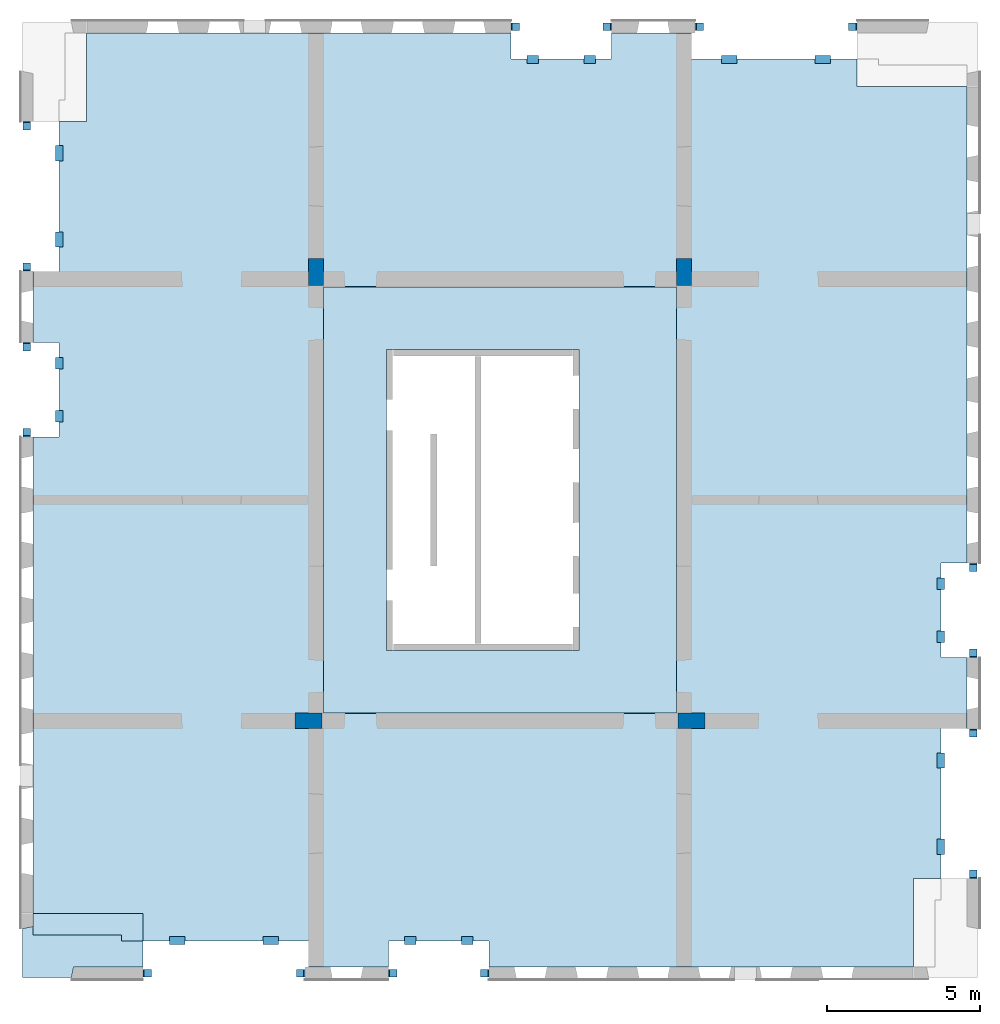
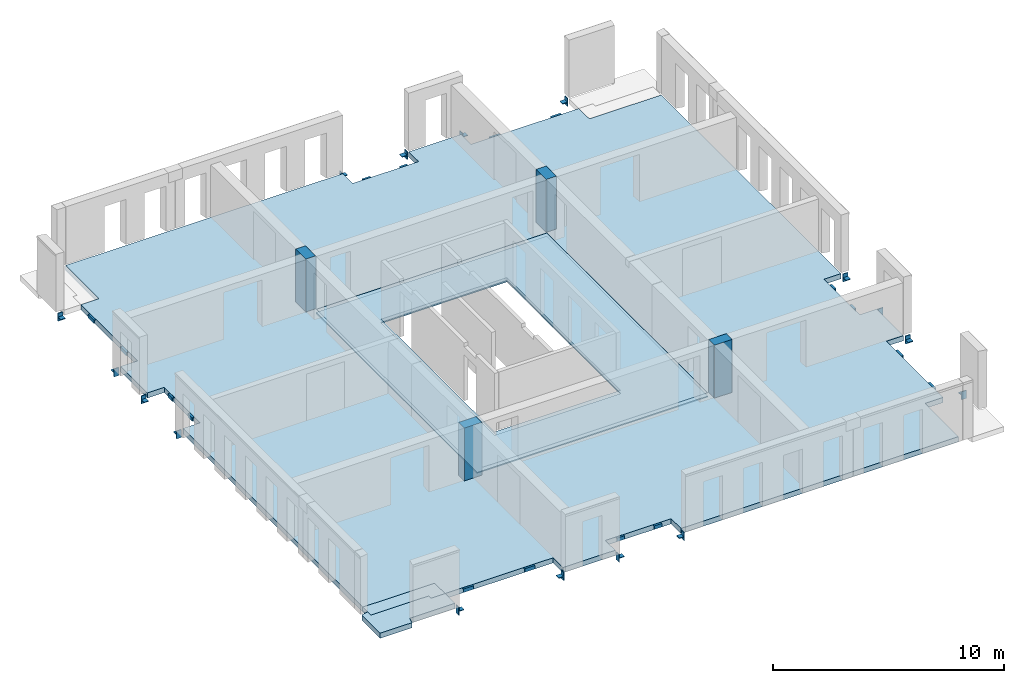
# One storey, part 1 of 5: 32 beams, 5 slabs, 4 columns, 3 openings.
"""IFC2X3 building model written with IfcOpenShell, lengths in millimetres."""

from ifc_helpers import new_model, entity, si_unit, converted_unit, derived_unit, direction, frame, frame_2d, origin, origin_2d_with_axis, place, context, subcontext, project, spatial, polyline, rectangle, outline, extrude, source, transform, mapped, material, layer, layer_set, layer_usage, type_object, type_shapes, element, save


model = new_model("IFC2X3")

# Units and contexts
model_context = context("Model", 3, precision=0.01, world=origin(), true_north=direction((6.12303176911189e-17, 1.0)))
body_context = subcontext(model_context, "Body", "Model", "MODEL_VIEW")
ifc_project = project(units=[si_unit("LENGTHUNIT", "METRE", prefix="MILLI"), si_unit("AREAUNIT", "SQUARE_METRE"), si_unit("VOLUMEUNIT", "CUBIC_METRE"), converted_unit("PLANEANGLEUNIT", "DEGREE", entity("IfcRatioMeasure", 0.0174532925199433), si_unit("PLANEANGLEUNIT", "RADIAN"), dimensions=[0, 0, 0, 0, 0, 0, 0]), si_unit("MASSUNIT", "GRAM", prefix="KILO"), derived_unit("MASSDENSITYUNIT", [(si_unit("MASSUNIT", "GRAM", prefix="KILO"), 1), (si_unit("LENGTHUNIT", "METRE"), -3)]), si_unit("TIMEUNIT", "SECOND"), si_unit("FREQUENCYUNIT", "HERTZ"), si_unit("THERMODYNAMICTEMPERATUREUNIT", "DEGREE_CELSIUS"), derived_unit("THERMALTRANSMITTANCEUNIT", [(si_unit("MASSUNIT", "GRAM", prefix="KILO"), 1), (si_unit("THERMODYNAMICTEMPERATUREUNIT", "KELVIN"), -1), (si_unit("TIMEUNIT", "SECOND"), -3)]), derived_unit("VOLUMETRICFLOWRATEUNIT", [(si_unit("LENGTHUNIT", "METRE"), 3), (si_unit("TIMEUNIT", "SECOND"), -1)]), si_unit("ELECTRICCURRENTUNIT", "AMPERE"), si_unit("ELECTRICVOLTAGEUNIT", "VOLT"), si_unit("POWERUNIT", "WATT"), si_unit("FORCEUNIT", "NEWTON", prefix="KILO"), si_unit("ILLUMINANCEUNIT", "LUX"), si_unit("LUMINOUSFLUXUNIT", "LUMEN"), si_unit("LUMINOUSINTENSITYUNIT", "CANDELA"), derived_unit("USERDEFINED", [(si_unit("MASSUNIT", "GRAM", prefix="KILO"), -1), (si_unit("LENGTHUNIT", "METRE"), -2), (si_unit("TIMEUNIT", "SECOND"), 3), (si_unit("LUMINOUSFLUXUNIT", "LUMEN"), 1)]), derived_unit("LINEARVELOCITYUNIT", [(si_unit("LENGTHUNIT", "METRE"), 1), (si_unit("TIMEUNIT", "SECOND"), -1)]), si_unit("PRESSUREUNIT", "PASCAL"), derived_unit("USERDEFINED", [(si_unit("LENGTHUNIT", "METRE"), -2), (si_unit("MASSUNIT", "GRAM", prefix="KILO"), 1), (si_unit("TIMEUNIT", "SECOND"), -2)])], contexts=[model_context])

# Site, building, storey
site_placement = place(None, origin())
site = spatial("IfcSite", under=ifc_project, at=site_placement, Name="Default", CompositionType="ELEMENT")
building_placement = place(site_placement, origin())
building = spatial("IfcBuilding", under=site, at=building_placement, Name="niet gebruiken", CompositionType="ELEMENT")
storey_placement = place(building_placement, frame((0.0, 0.0, 24120.0)))
storey = spatial("IfcBuildingStorey", under=building, at=storey_placement, Name="07 zevende verdieping", CompositionType="ELEMENT", Elevation=24120.0)

# Columns
ifc_material_1 = material(Name="NLRS_f2_beton ihwg")
column_type_1 = type_object("IfcColumnType", Name="500x880", PredefinedType="COLUMN", material=ifc_material_1)
shared_shape_1 = source(origin(), body_context, "Body", "SweptSolid", [
    extrude(rectangle(XDim=879.999999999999, YDim=500.000000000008, at=origin_2d_with_axis()), frame((135750.003540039, 24940.0, 24030.0), z_axis=(0.0, 0.0, 1.0), x_axis=(0.0, -1.0, 0.0)), (0.0, 0.0, 1.0), 2790.0),
])
type_shapes(column_type_1, [shared_shape_1])
column_1_placement = place(storey_placement, frame((0.0, 0.0, -24120.0)))
element("IfcColumn", 1, at=column_1_placement, inside=storey, type_object=column_type_1, material=ifc_material_1, Name="NLRS_28.11_SCO_TLB_beton kolom ihwg_gen:500x880", ObjectType="500x880", context=body_context, shape_type="MappedRepresentation", body=[
    mapped(shared_shape_1, transform((0.0, 0.0, 0.0), scale=1.0)),
])
column_type_2 = type_object("IfcColumnType", Name="500x880", PredefinedType="COLUMN", material=ifc_material_1)
shared_shape_2 = source(origin(), body_context, "Body", "SweptSolid", [
    extrude(rectangle(XDim=879.999999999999, YDim=500.000000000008, at=origin_2d_with_axis()), frame((147750.0, 24940.0, 24030.0), z_axis=(0.0, 0.0, 1.0), x_axis=(0.0, -1.0, 0.0)), (0.0, 0.0, 1.0), 2790.0),
])
type_shapes(column_type_2, [shared_shape_2])
column_2_placement = place(storey_placement, frame((0.0, 0.0, -24120.0)))
element("IfcColumn", 2, at=column_2_placement, inside=storey, type_object=column_type_2, material=ifc_material_1, Name="NLRS_28.11_SCO_TLB_beton kolom ihwg_gen:500x880", ObjectType="500x880", context=body_context, shape_type="MappedRepresentation", body=[
    mapped(shared_shape_2, transform((0.0, 0.0, 0.0), scale=1.0)),
])
column_type_3 = type_object("IfcColumnType", Name="500x880", PredefinedType="COLUMN", material=ifc_material_1)
shared_shape_3 = source(origin(), body_context, "Body", "SweptSolid", [
    extrude(rectangle(XDim=500.000000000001, YDim=880.000000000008, at=origin_2d_with_axis()), frame((135510.003540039, 10300.0115507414, 24030.0), z_axis=(0.0, 0.0, 1.0), x_axis=(0.0, -1.0, 0.0)), (0.0, 0.0, 1.0), 2790.0),
])
type_shapes(column_type_3, [shared_shape_3])
column_3_placement = place(storey_placement, frame((0.0, 0.0, -24120.0)))
element("IfcColumn", 3, at=column_3_placement, inside=storey, type_object=column_type_3, material=ifc_material_1, Name="NLRS_28.11_SCO_TLB_beton kolom ihwg_gen:500x880", ObjectType="500x880", context=body_context, shape_type="MappedRepresentation", body=[
    mapped(shared_shape_3, transform((0.0, 0.0, 0.0), scale=1.0)),
])
column_type_4 = type_object("IfcColumnType", Name="500x880", PredefinedType="COLUMN", material=ifc_material_1)
shared_shape_4 = source(origin(), body_context, "Body", "SweptSolid", [
    extrude(rectangle(XDim=500.000000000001, YDim=880.000000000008, at=origin_2d_with_axis()), frame((147990.0, 10300.0, 24030.0), z_axis=(0.0, 0.0, 1.0), x_axis=(0.0, -1.0, 0.0)), (0.0, 0.0, 1.0), 2790.0),
])
type_shapes(column_type_4, [shared_shape_4])
column_4_placement = place(storey_placement, frame((0.0, 0.0, -24120.0)))
element("IfcColumn", 4, at=column_4_placement, inside=storey, type_object=column_type_4, material=ifc_material_1, Name="NLRS_28.11_SCO_TLB_beton kolom ihwg_gen:500x880", ObjectType="500x880", context=body_context, shape_type="MappedRepresentation", body=[
    mapped(shared_shape_4, transform((0.0, 0.0, 0.0), scale=1.0)),
])

# Beams
ifc_material_2 = material(Name="NLRS_h2_staal")
beam_type_1 = type_object("IfcBeamType", Name="NLRS_28.11_SF_WPB_stalen schoen 1_gen", PredefinedType="BEAM", material=ifc_material_2)
shared_shape_5 = source(origin(), body_context, "Body", "SweptSolid", [
    extrude(outline(polyline([(-39.5000000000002, -20.5000000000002), (-1.50000000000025, -20.5000000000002), (20.5000000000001, 1.50000000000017), (20.5000000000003, 39.5000000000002), (-39.5000000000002, -20.5000000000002)])), frame((-77.5000000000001, -84.4999999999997, -55.5000000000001), z_axis=(1.0, 0.0, 0.0), x_axis=(0.0, -1.0, 0.0)), (0.0, 0.0, 1.0), 35.0),
    extrude(outline(polyline([(-39.5000000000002, -20.5000000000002), (-1.50000000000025, -20.5000000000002), (20.5000000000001, 1.50000000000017), (20.5000000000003, 39.5000000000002), (-39.5000000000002, -20.5000000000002)])), frame((42.5000000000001, -84.4999999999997, -55.5000000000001), z_axis=(1.0, 0.0, 0.0), x_axis=(0.0, -1.0, 0.0)), (0.0, 0.0, 1.0), 35.0),
    extrude(rectangle(XDim=235.0, YDim=34.9999999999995, at=frame_2d((0.0, 8.88178419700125e-15), x_axis=(1.0, 0.0))), frame((0.0, -122.5, -230.0), z_axis=(0.0, 0.0, 1.0), x_axis=(-1.0, 0.0, 0.0)), (0.0, 0.0, 1.0), 420.0),
    extrude(rectangle(XDim=235.0, YDim=240.0, at=origin_2d_with_axis()), frame((0.0, 15.0, -35.0), z_axis=(0.0, 0.0, 1.0), x_axis=(-1.0, 0.0, 0.0)), (0.0, 0.0, 1.0), 35.0),
])
type_shapes(beam_type_1, [shared_shape_5])
beam_1_placement = place(storey_placement, frame((157180.0, 12500.0, -310.0)))
element("IfcBeam", 5, at=beam_1_placement, inside=storey, type_object=beam_type_1, material=ifc_material_2, Name="NLRS_28.11_SF_WPB_stalen schoen 1_gen:NLRS_28.11_SF_WPB_stalen schoen 1_gen", ObjectType="NLRS_28.11_SF_WPB_stalen schoen 1_gen", context=body_context, shape_type="MappedRepresentation", body=[
    mapped(shared_shape_5, transform((0.0, 0.0, 0.0), scale=1.0)),
])
for number, where, z_axis, x_axis, name in (
    (6, (126320.0, 22500.0, -310.0), (0.0, 0.0, 1.0), (-1.0, 0.0, 0.0), "NLRS_28.11_SF_WPB_stalen schoen 1_gen:NLRS_28.11_SF_WPB_stalen schoen 1_gen"),
    (7, (157180.0, 15300.0, -310.0), (0.0, 0.0, 1.0), (-1.0, 0.0, 0.0), "NLRS_28.11_SF_WPB_stalen schoen 1_gen:NLRS_28.11_SF_WPB_stalen schoen 1_gen"),
):
    element("IfcBeam", number, at=place(storey_placement, frame(where, z_axis=z_axis, x_axis=x_axis)), inside=storey, type_object=beam_type_1, material=ifc_material_2, Name=name, ObjectType="NLRS_28.11_SF_WPB_stalen schoen 1_gen", context=body_context, shape_type="MappedRepresentation", body=[
        mapped(shared_shape_5, transform((0.0, 0.0, 0.0), scale=1.0)),
    ])
beam_2_placement = place(storey_placement, frame((126320.0, 19700.0, -310.0)))
element("IfcBeam", 8, at=beam_2_placement, inside=storey, type_object=beam_type_1, material=ifc_material_2, Name="NLRS_28.11_SF_WPB_stalen schoen 1_gen:NLRS_28.11_SF_WPB_stalen schoen 1_gen", ObjectType="NLRS_28.11_SF_WPB_stalen schoen 1_gen", context=body_context, shape_type="MappedRepresentation", body=[
    mapped(shared_shape_5, transform((0.0, 0.0, 0.0), scale=1.0)),
])
for number, where, z_axis, x_axis, name in (
    (9, (138250.0, 2070.0, -310.0), (0.0, 0.0, 1.0), (0.0, -1.0, 0.0), "NLRS_28.11_SF_WPB_stalen schoen 1_gen:NLRS_28.11_SF_WPB_stalen schoen 1_gen"),
    (10, (141250.0, 2070.0, -310.0), (0.0, 0.0, 1.0), (0.0, 1.0, 0.0), "NLRS_28.11_SF_WPB_stalen schoen 1_gen:NLRS_28.11_SF_WPB_stalen schoen 1_gen"),
    (11, (145250.0, 32930.0, -310.0), (0.0, 0.0, 1.0), (0.0, 1.0, 0.0), "NLRS_28.11_SF_WPB_stalen schoen 1_gen:NLRS_28.11_SF_WPB_stalen schoen 1_gen"),
    (12, (142250.0, 32930.0, -310.0), (0.0, 0.0, 1.0), (0.0, -1.0, 0.0), "NLRS_28.11_SF_WPB_stalen schoen 1_gen:NLRS_28.11_SF_WPB_stalen schoen 1_gen"),
):
    element("IfcBeam", number, at=place(storey_placement, frame(where, z_axis=z_axis, x_axis=x_axis)), inside=storey, type_object=beam_type_1, material=ifc_material_2, Name=name, ObjectType="NLRS_28.11_SF_WPB_stalen schoen 1_gen", context=body_context, shape_type="MappedRepresentation", body=[
        mapped(shared_shape_5, transform((0.0, 0.0, 0.0), scale=1.0)),
    ])
beam_type_2 = type_object("IfcBeamType", Name="NLRS_28.11_SF_WPB_stalen schoen 2_gen", PredefinedType="BEAM", material=ifc_material_2)
shared_shape_6 = source(origin(), body_context, "Body", "SweptSolid", [
    extrude(outline(polyline([(-39.5000000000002, -20.5000000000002), (-1.50000000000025, -20.5000000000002), (20.5000000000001, 1.50000000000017), (20.5000000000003, 39.5000000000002), (-39.5000000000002, -20.5000000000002)])), frame((-77.5000000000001, -79.4999999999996, -60.5000000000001), z_axis=(1.0, 0.0, 0.0), x_axis=(0.0, -1.0, 0.0)), (0.0, 0.0, 1.0), 35.0),
    extrude(outline(polyline([(-39.5000000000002, -20.5000000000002), (-1.50000000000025, -20.5000000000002), (20.5000000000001, 1.50000000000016), (20.5000000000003, 39.5000000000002), (-39.5000000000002, -20.5000000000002)])), frame((42.5000000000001, -79.4999999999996, -60.5000000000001), z_axis=(1.0, 0.0, 0.0), x_axis=(0.0, -1.0, 0.0)), (0.0, 0.0, 1.0), 35.0),
    extrude(rectangle(XDim=235.0, YDim=39.9999999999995, at=frame_2d((0.0, 8.88178419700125e-15), x_axis=(1.0, 0.0))), frame((0.0, -120.0, -230.0), z_axis=(0.0, 0.0, 1.0), x_axis=(-1.0, 0.0, 0.0)), (0.0, 0.0, 1.0), 420.0),
    extrude(rectangle(XDim=235.0, YDim=235.0, at=origin_2d_with_axis()), frame((0.0, 17.5000000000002, -40.0), z_axis=(0.0, 0.0, 1.0), x_axis=(-1.0, 0.0, 0.0)), (0.0, 0.0, 1.0), 39.9999999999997),
])
type_shapes(beam_type_2, [shared_shape_6])
beam_3_placement = place(storey_placement, frame((157180.0, 9900.0, -310.0), z_axis=(0.0, 0.0, 1.0), x_axis=(-1.0, 0.0, 0.0)))
element("IfcBeam", 13, at=beam_3_placement, inside=storey, type_object=beam_type_2, material=ifc_material_2, Name="NLRS_28.11_SF_WPB_stalen schoen 2_gen:NLRS_28.11_SF_WPB_stalen schoen 2_gen", ObjectType="NLRS_28.11_SF_WPB_stalen schoen 2_gen", context=body_context, shape_type="MappedRepresentation", body=[
    mapped(shared_shape_6, transform((0.0, 0.0, 0.0), scale=1.0)),
])
for number, where, name in (
    (14, (157180.0, 5300.0, -310.0), "NLRS_28.11_SF_WPB_stalen schoen 2_gen:NLRS_28.11_SF_WPB_stalen schoen 2_gen"),
    (15, (126320.0, 25100.0, -310.0), "NLRS_28.11_SF_WPB_stalen schoen 2_gen:NLRS_28.11_SF_WPB_stalen schoen 2_gen"),
):
    element("IfcBeam", number, at=place(storey_placement, frame(where)), inside=storey, type_object=beam_type_2, material=ifc_material_2, Name=name, ObjectType="NLRS_28.11_SF_WPB_stalen schoen 2_gen", context=body_context, shape_type="MappedRepresentation", body=[
        mapped(shared_shape_6, transform((0.0, 0.0, 0.0), scale=1.0)),
    ])
for number, where, z_axis, x_axis, name in (
    (16, (126320.0, 29700.0, -310.0), (0.0, 0.0, 1.0), (-1.0, 0.0, 0.0), "NLRS_28.11_SF_WPB_stalen schoen 2_gen:NLRS_28.11_SF_WPB_stalen schoen 2_gen"),
    (17, (135250.0, 2070.0, -310.0), (0.0, 0.0, 1.0), (0.0, 1.0, 0.0), "NLRS_28.11_SF_WPB_stalen schoen 2_gen:NLRS_28.11_SF_WPB_stalen schoen 2_gen"),
    (18, (130250.0, 2070.0, -310.0), (0.0, 0.0, 1.0), (0.0, -1.0, 0.0), "NLRS_28.11_SF_WPB_stalen schoen 2_gen:NLRS_28.11_SF_WPB_stalen schoen 2_gen"),
    (19, (148250.0, 32930.0, -310.0), (0.0, 0.0, 1.0), (0.0, -1.0, 0.0), "NLRS_28.11_SF_WPB_stalen schoen 2_gen:NLRS_28.11_SF_WPB_stalen schoen 2_gen"),
    (20, (153250.0, 32930.0, -310.0), (0.0, 0.0, 1.0), (0.0, 1.0, 0.0), "NLRS_28.11_SF_WPB_stalen schoen 2_gen:NLRS_28.11_SF_WPB_stalen schoen 2_gen"),
):
    element("IfcBeam", number, at=place(storey_placement, frame(where, z_axis=z_axis, x_axis=x_axis)), inside=storey, type_object=beam_type_2, material=ifc_material_2, Name=name, ObjectType="NLRS_28.11_SF_WPB_stalen schoen 2_gen", context=body_context, shape_type="MappedRepresentation", body=[
        mapped(shared_shape_6, transform((0.0, 0.0, 0.0), scale=1.0)),
    ])
beam_type_3 = type_object("IfcBeamType", Name="NLRS_28.11_SF_WPB_stalen handje 7 lang 375_gen:NLRS_28.11_SF_WPB_stalen handje 7_gen", PredefinedType="BEAM")
beam_4_placement = place(storey_placement, frame((156235.125015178, 9255.24886461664, -93.0), z_axis=(0.0, 0.0, 1.0), x_axis=(0.0, -1.0, 0.0)))
element("IfcBeam", 21, at=beam_4_placement, inside=storey, type_object=beam_type_3, material=ifc_material_2, Name="NLRS_28.11_SF_WPB_stalen handje 7 lang 375_gen:NLRS_28.11_SF_WPB_stalen handje 7_gen", ObjectType="NLRS_28.11_SF_WPB_stalen handje 7 lang 375_gen:NLRS_28.11_SF_WPB_stalen handje 7_gen", context=body_context, shape_type="SweptSolid", body=[
    extrude(outline(polyline([(-70.6666666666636, -153.333333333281), (-40.6666666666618, -153.333333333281), (-40.6666666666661, 61.6666666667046), (111.333333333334, 61.6666666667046), (111.333333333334, 91.6666666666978), (-70.6666666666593, 91.6666666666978), (-70.6666666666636, -153.333333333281)])), frame((0.0, -91.6666666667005, -70.6666666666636), z_axis=(1.0, 0.0, 0.0), x_axis=(0.0, 0.0, -1.0)), (0.0, 0.0, 1.0), 500.000000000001),
])
beam_5_placement = place(storey_placement, frame((156235.125015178, 6445.2458243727, -93.0), z_axis=(0.0, 0.0, 1.0), x_axis=(0.0, -1.0, 0.0)))
element("IfcBeam", 22, at=beam_5_placement, inside=storey, type_object=beam_type_3, material=ifc_material_2, Name="NLRS_28.11_SF_WPB_stalen handje 7 lang 375_gen:NLRS_28.11_SF_WPB_stalen handje 7_gen", ObjectType="NLRS_28.11_SF_WPB_stalen handje 7 lang 375_gen:NLRS_28.11_SF_WPB_stalen handje 7_gen", context=body_context, shape_type="SweptSolid", body=[
    extrude(outline(polyline([(-70.6666666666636, -153.33333333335), (-40.6666666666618, -153.33333333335), (-40.6666666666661, 61.6666666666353), (111.333333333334, 61.6666666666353), (111.333333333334, 91.6666666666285), (-70.6666666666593, 91.6666666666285), (-70.6666666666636, -153.33333333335)])), frame((0.0, -91.6666666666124, -70.6666666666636), z_axis=(1.0, 0.0, 0.0), x_axis=(0.0, 0.0, -1.0)), (0.0, 0.0, 1.0), 500.000000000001),
])
beam_6_placement = place(storey_placement, frame((127264.874984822, 25744.7511353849, -93.0), z_axis=(0.0, 0.0, 1.0), x_axis=(0.0, 1.0, 0.0)))
element("IfcBeam", 23, at=beam_6_placement, inside=storey, type_object=beam_type_3, material=ifc_material_2, Name="NLRS_28.11_SF_WPB_stalen handje 7 lang 375_gen:NLRS_28.11_SF_WPB_stalen handje 7_gen", ObjectType="NLRS_28.11_SF_WPB_stalen handje 7 lang 375_gen:NLRS_28.11_SF_WPB_stalen handje 7_gen", context=body_context, shape_type="SweptSolid", body=[
    extrude(outline(polyline([(-70.6666666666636, -153.333333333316), (-40.6666666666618, -153.333333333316), (-40.6666666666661, 61.66666666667), (111.333333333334, 61.66666666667), (111.333333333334, 91.6666666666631), (-70.6666666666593, 91.6666666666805), (-70.6666666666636, -153.333333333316)])), frame((0.0, -91.6666666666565, -70.6666666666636), z_axis=(1.0, 0.0, 0.0), x_axis=(0.0, 0.0, -1.0)), (0.0, 0.0, 1.0), 500.0),
])
beam_7_placement = place(storey_placement, frame((127264.874984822, 28554.7541756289, -93.0), z_axis=(0.0, 0.0, 1.0), x_axis=(0.0, 1.0, 0.0)))
element("IfcBeam", 24, at=beam_7_placement, inside=storey, type_object=beam_type_3, material=ifc_material_2, Name="NLRS_28.11_SF_WPB_stalen handje 7 lang 375_gen:NLRS_28.11_SF_WPB_stalen handje 7_gen", ObjectType="NLRS_28.11_SF_WPB_stalen handje 7 lang 375_gen:NLRS_28.11_SF_WPB_stalen handje 7_gen", context=body_context, shape_type="SweptSolid", body=[
    extrude(outline(polyline([(-70.6666666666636, -153.333333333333), (-40.6666666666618, -153.333333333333), (-40.6666666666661, 61.6666666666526), (111.333333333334, 61.6666666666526), (111.333333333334, 91.6666666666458), (-70.6666666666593, 91.6666666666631), (-70.6666666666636, -153.333333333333)])), frame((0.0, -91.6666666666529, -70.6666666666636), z_axis=(1.0, 0.0, 0.0), x_axis=(0.0, 0.0, -1.0)), (0.0, 0.0, 1.0), 500.0),
])
for number, where, z_axis, x_axis, name in (
    (25, (140862.631597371, 3015.23611279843, -93.0), (0.0, 0.0, 1.0), (-1.0, 0.0, 0.0), "NLRS_28.11_SF_WPB_stalen handje 7 lang 375_gen:NLRS_28.11_SF_WPB_stalen handje 7_gen"),
    (26, (139012.628555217, 3015.23611279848, -93.0), (0.0, 0.0, 1.0), (-1.0, 0.0, 0.0), "NLRS_28.11_SF_WPB_stalen handje 7 lang 375_gen:NLRS_28.11_SF_WPB_stalen handje 7_gen"),
):
    element("IfcBeam", number, at=place(storey_placement, frame(where, z_axis=z_axis, x_axis=x_axis)), inside=storey, type_object=beam_type_3, material=ifc_material_2, Name=name, ObjectType="NLRS_28.11_SF_WPB_stalen handje 7 lang 375_gen:NLRS_28.11_SF_WPB_stalen handje 7_gen", context=body_context, shape_type="SweptSolid", body=[
        extrude(outline(polyline([(-70.6666666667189, -153.333333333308), (-40.6666666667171, -153.333333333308), (-40.6666666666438, 61.6666666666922), (111.333333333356, 61.6666666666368), (111.333333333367, 91.6666666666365), (-70.6666666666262, 91.6666666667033), (-70.6666666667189, -153.333333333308)])), frame((0.0, -91.6666666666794, -70.6666666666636), z_axis=(1.0, 0.0, 0.0), x_axis=(0.0, 0.0, -1.0)), (0.0, 0.0, 1.0), 375.000000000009),
    ])
for number, where, z_axis, x_axis, name in (
    (27, (134525.131597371, 3015.2361127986, -93.0), (0.0, 0.0, 1.0), (-1.0, 0.0, 0.0), "NLRS_28.11_SF_WPB_stalen handje 7 lang 375_gen:NLRS_28.11_SF_WPB_stalen handje 7_gen"),
    (28, (131475.128555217, 3015.23611279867, -93.0), (0.0, 0.0, 1.0), (-1.0, 0.0, 0.0), "NLRS_28.11_SF_WPB_stalen handje 7 lang 375_gen:NLRS_28.11_SF_WPB_stalen handje 7_gen"),
):
    element("IfcBeam", number, at=place(storey_placement, frame(where, z_axis=z_axis, x_axis=x_axis)), inside=storey, type_object=beam_type_3, material=ifc_material_2, Name=name, ObjectType="NLRS_28.11_SF_WPB_stalen handje 7 lang 375_gen:NLRS_28.11_SF_WPB_stalen handje 7_gen", context=body_context, shape_type="SweptSolid", body=[
        extrude(outline(polyline([(-70.6666666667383, -153.333333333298), (-40.6666666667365, -153.333333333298), (-40.666666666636, 61.6666666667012), (111.333333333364, 61.6666666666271), (111.333333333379, 91.6666666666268), (-70.6666666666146, 91.666666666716), (-70.6666666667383, -153.333333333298)])), frame((0.0, -91.6666666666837, -70.6666666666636), z_axis=(1.0, 0.0, 0.0), x_axis=(0.0, 0.0, -1.0)), (0.0, 0.0, 1.0), 500.000000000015),
    ])
beam_8_placement = place(storey_placement, frame((142637.368402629, 31984.7638872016, -93.0)))
element("IfcBeam", 29, at=beam_8_placement, inside=storey, type_object=beam_type_3, material=ifc_material_2, Name="NLRS_28.11_SF_WPB_stalen handje 7 lang 375_gen:NLRS_28.11_SF_WPB_stalen handje 7_gen", ObjectType="NLRS_28.11_SF_WPB_stalen handje 7 lang 375_gen:NLRS_28.11_SF_WPB_stalen handje 7_gen", context=body_context, shape_type="SweptSolid", body=[
    extrude(outline(polyline([(-70.66666666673, -153.333333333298), (-40.6666666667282, -153.333333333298), (-40.6666666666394, 61.6666666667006), (111.333333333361, 61.6666666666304), (111.333333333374, 91.6666666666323), (-70.6666666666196, 91.6666666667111), (-70.66666666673, -153.333333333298)])), frame((0.0, -91.6666666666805, -70.6666666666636), z_axis=(1.0, 0.0, 0.0), x_axis=(0.0, 0.0, -1.0)), (0.0, 0.0, 1.0), 375.000000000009),
])
beam_9_placement = place(storey_placement, frame((144487.371444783, 31984.7638872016, -93.0)))
element("IfcBeam", 30, at=beam_9_placement, inside=storey, type_object=beam_type_3, material=ifc_material_2, Name="NLRS_28.11_SF_WPB_stalen handje 7 lang 375_gen:NLRS_28.11_SF_WPB_stalen handje 7_gen", ObjectType="NLRS_28.11_SF_WPB_stalen handje 7 lang 375_gen:NLRS_28.11_SF_WPB_stalen handje 7_gen", context=body_context, shape_type="SweptSolid", body=[
    extrude(outline(polyline([(-70.66666666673, -153.333333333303), (-40.6666666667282, -153.333333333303), (-40.6666666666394, 61.6666666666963), (111.333333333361, 61.6666666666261), (111.333333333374, 91.6666666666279), (-70.6666666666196, 91.6666666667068), (-70.66666666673, -153.333333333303)])), frame((0.0, -91.6666666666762, -70.6666666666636), z_axis=(1.0, 0.0, 0.0), x_axis=(0.0, 0.0, -1.0)), (0.0, 0.0, 1.0), 375.000000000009),
])
beam_10_placement = place(storey_placement, frame((148974.868402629, 31984.7638872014, -93.0)))
element("IfcBeam", 31, at=beam_10_placement, inside=storey, type_object=beam_type_3, material=ifc_material_2, Name="NLRS_28.11_SF_WPB_stalen handje 7 lang 375_gen:NLRS_28.11_SF_WPB_stalen handje 7_gen", ObjectType="NLRS_28.11_SF_WPB_stalen handje 7 lang 375_gen:NLRS_28.11_SF_WPB_stalen handje 7_gen", context=body_context, shape_type="SweptSolid", body=[
    extrude(outline(polyline([(-70.66666666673, -153.333333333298), (-40.6666666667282, -153.333333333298), (-40.6666666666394, 61.6666666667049), (111.333333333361, 61.6666666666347), (111.333333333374, 91.6666666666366), (-70.6666666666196, 91.6666666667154), (-70.66666666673, -153.333333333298)])), frame((0.0, -91.6666666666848, -70.6666666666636), z_axis=(1.0, 0.0, 0.0), x_axis=(0.0, 0.0, -1.0)), (0.0, 0.0, 1.0), 500.000000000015),
])
beam_11_placement = place(storey_placement, frame((152024.871444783, 31984.7638872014, -93.0)))
element("IfcBeam", 32, at=beam_11_placement, inside=storey, type_object=beam_type_3, material=ifc_material_2, Name="NLRS_28.11_SF_WPB_stalen handje 7 lang 375_gen:NLRS_28.11_SF_WPB_stalen handje 7_gen", ObjectType="NLRS_28.11_SF_WPB_stalen handje 7 lang 375_gen:NLRS_28.11_SF_WPB_stalen handje 7_gen", context=body_context, shape_type="SweptSolid", body=[
    extrude(outline(polyline([(-70.66666666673, -153.333333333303), (-40.6666666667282, -153.333333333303), (-40.6666666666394, 61.6666666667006), (111.333333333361, 61.6666666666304), (111.333333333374, 91.6666666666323), (-70.6666666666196, 91.6666666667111), (-70.66666666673, -153.333333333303)])), frame((0.0, -91.6666666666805, -70.6666666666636), z_axis=(1.0, 0.0, 0.0), x_axis=(0.0, 0.0, -1.0)), (0.0, 0.0, 1.0), 500.000000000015),
])
beam_12_placement = place(storey_placement, frame((156235.0, 14952.5097115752, -93.0), z_axis=(0.0, 0.0, 1.0), x_axis=(0.0, -1.0, 0.0)))
element("IfcBeam", 33, at=beam_12_placement, inside=storey, type_object=beam_type_3, material=ifc_material_2, Name="NLRS_28.11_SF_WPB_stalen handje 7 lang 375_gen:NLRS_28.11_SF_WPB_stalen handje 7_gen", ObjectType="NLRS_28.11_SF_WPB_stalen handje 7 lang 375_gen:NLRS_28.11_SF_WPB_stalen handje 7_gen", context=body_context, shape_type="SweptSolid", body=[
    extrude(outline(polyline([(-70.6666666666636, -153.333333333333), (-40.6666666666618, -153.333333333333), (-40.6666666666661, 61.66666666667), (111.333333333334, 61.66666666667), (111.333333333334, 91.6666666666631), (-70.6666666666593, 91.6666666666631), (-70.6666666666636, -153.333333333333)])), frame((0.0, -91.6666666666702, -70.6666666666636), z_axis=(1.0, 0.0, 0.0), x_axis=(0.0, 0.0, -1.0)), (0.0, 0.0, 1.0), 375.000000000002),
])
beam_13_placement = place(storey_placement, frame((156235.0, 13222.5097115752, -93.0), z_axis=(0.0, 0.0, 1.0), x_axis=(0.0, -1.0, 0.0)))
element("IfcBeam", 34, at=beam_13_placement, inside=storey, type_object=beam_type_3, material=ifc_material_2, Name="NLRS_28.11_SF_WPB_stalen handje 7 lang 375_gen:NLRS_28.11_SF_WPB_stalen handje 7_gen", ObjectType="NLRS_28.11_SF_WPB_stalen handje 7 lang 375_gen:NLRS_28.11_SF_WPB_stalen handje 7_gen", context=body_context, shape_type="SweptSolid", body=[
    extrude(outline(polyline([(-70.6666666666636, -153.333333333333), (-40.6666666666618, -153.333333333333), (-40.6666666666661, 61.66666666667), (111.333333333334, 61.66666666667), (111.333333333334, 91.6666666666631), (-70.6666666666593, 91.6666666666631), (-70.6666666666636, -153.333333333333)])), frame((0.0, -91.666666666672, -70.6666666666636), z_axis=(1.0, 0.0, 0.0), x_axis=(0.0, 0.0, -1.0)), (0.0, 0.0, 1.0), 375.000000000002),
])
beam_14_placement = place(storey_placement, frame((127265.0, 20047.4902884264, -93.0), z_axis=(0.0, 0.0, 1.0), x_axis=(0.0, 1.0, 0.0)))
element("IfcBeam", 35, at=beam_14_placement, inside=storey, type_object=beam_type_3, material=ifc_material_2, Name="NLRS_28.11_SF_WPB_stalen handje 7 lang 375_gen:NLRS_28.11_SF_WPB_stalen handje 7_gen", ObjectType="NLRS_28.11_SF_WPB_stalen handje 7 lang 375_gen:NLRS_28.11_SF_WPB_stalen handje 7_gen", context=body_context, shape_type="SweptSolid", body=[
    extrude(outline(polyline([(-70.6666666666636, -153.333333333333), (-40.6666666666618, -153.333333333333), (-40.6666666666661, 61.66666666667), (111.333333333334, 61.6666666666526), (111.333333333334, 91.6666666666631), (-70.6666666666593, 91.6666666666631), (-70.6666666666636, -153.333333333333)])), frame((0.0, -91.6666666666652, -70.6666666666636), z_axis=(1.0, 0.0, 0.0), x_axis=(0.0, 0.0, -1.0)), (0.0, 0.0, 1.0), 375.000000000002),
])
beam_15_placement = place(storey_placement, frame((127265.0, 21777.4902884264, -93.0), z_axis=(0.0, 0.0, 1.0), x_axis=(0.0, 1.0, 0.0)))
element("IfcBeam", 36, at=beam_15_placement, inside=storey, type_object=beam_type_3, material=ifc_material_2, Name="NLRS_28.11_SF_WPB_stalen handje 7 lang 375_gen:NLRS_28.11_SF_WPB_stalen handje 7_gen", ObjectType="NLRS_28.11_SF_WPB_stalen handje 7 lang 375_gen:NLRS_28.11_SF_WPB_stalen handje 7_gen", context=body_context, shape_type="SweptSolid", body=[
    extrude(outline(polyline([(-70.6666666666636, -153.333333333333), (-40.6666666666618, -153.333333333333), (-40.6666666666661, 61.66666666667), (111.333333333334, 61.6666666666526), (111.333333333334, 91.6666666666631), (-70.6666666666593, 91.6666666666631), (-70.6666666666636, -153.333333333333)])), frame((0.0, -91.6666666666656, -70.6666666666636), z_axis=(1.0, 0.0, 0.0), x_axis=(0.0, 0.0, -1.0)), (0.0, 0.0, 1.0), 375.000000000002),
])

# Slabs
ifc_material_3 = material(Name="NLRS_f2_beton prefab")
ifc_layer_1 = layer(ifc_material_3, 270.0)
ifc_layer_set_1 = layer_set([ifc_layer_1], Name="Floor:NLRS_23.22_FL_beton prefab d=270 3D element_gen")
ifc_layer_usage_1 = layer_usage(ifc_layer_set_1, "AXIS3", "POSITIVE", 0.0)
slab_1_placement = place(storey_placement, origin())
element("IfcSlab", 37, at=slab_1_placement, inside=storey, material=ifc_layer_usage_1, Name="Floor:NLRS_23.22_FL_beton prefab d=270 3D element_gen", ObjectType="Floor:NLRS_23.22_FL_beton prefab d=270 3D element_gen", PredefinedType="LANDING", context=body_context, shape_type="SweptSolid", body=[
    extrude(outline(polyline([(-1010.01841692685, -1470.01841692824), (580.128918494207, -1470.01841692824), (647.981583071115, -1137.01841692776), (1072.98158307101, -1137.01841692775), (1072.981583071, 2452.9815830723), (-677.018416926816, 2452.98158307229), (-677.018416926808, 187.981583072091), (-1010.01841692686, 120.128918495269), (-1010.01841692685, -1470.01841692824)])), frame((127657.018416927, 2947.01841693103, -90.0), z_axis=(0.0, 0.0, -1.0), x_axis=(0.0, 1.0, 0.0)), (0.0, 0.0, 1.0), 269.999999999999),
])
ifc_layer_2 = layer(ifc_material_1, 170.0)
ifc_layer_set_2 = layer_set([ifc_layer_2], Name="Floor:NLRS_23.21_FL_beton ihwg d=170_gen")
ifc_layer_usage_2 = layer_usage(ifc_layer_set_2, "AXIS3", "POSITIVE", 0.0)
slab_2_placement = place(storey_placement, origin())
element("IfcSlab", 38, at=slab_2_placement, inside=storey, material=ifc_layer_usage_2, Name="Floor:NLRS_23.21_FL_beton ihwg d=170_gen", ObjectType="Floor:NLRS_23.21_FL_beton ihwg d=170_gen", PredefinedType="FLOOR", context=body_context, shape_type="SweptSolid", body=[
    extrude(outline(polyline([(-166.666666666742, -2160.0), (533.333333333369, -2160.0), (533.333333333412, 1430.0), (-366.666666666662, 1430.0), (-366.666666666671, 730.0), (-166.666666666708, 730.0), (-166.666666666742, -2160.0)])), frame((128680.0, 3486.66666666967, -90.0), z_axis=(0.0, 0.0, -1.0), x_axis=(0.0, 1.0, 0.0)), (0.0, 0.0, 1.0), 170.0),
])

# Slab, opening
ifc_layer_3 = layer(ifc_material_1, 230.0)
ifc_layer_set_3 = layer_set([ifc_layer_3], Name="Floor:NLRS_23.21_FL_vloer=230_gen")
ifc_layer_usage_3 = layer_usage(ifc_layer_set_3, "AXIS3", "POSITIVE", 0.0)
slab_3_placement = place(storey_placement, frame((136000.0, 10550.0, -320.0)))
slab_3 = element("IfcSlab", 39, at=slab_3_placement, inside=storey, material=ifc_layer_usage_3, Name="Floor:NLRS_23.21_FL_vloer=230_gen", ObjectType="Floor:NLRS_23.21_FL_vloer=230_gen", PredefinedType="FLOOR", context=body_context, shape_type="SweptSolid", body=[
    extrude(rectangle(XDim=13900.2361127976, YDim=11500.0, at=frame_2d((0.0, -0.11805639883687), x_axis=(0.0, -1.0))), frame((5750.0, 6950.0, 230.0), z_axis=(0.0, 0.0, -1.0), x_axis=(-1.0, 0.0, 0.0)), (0.0, 0.0, 1.0), 230.0),
])
opening_1_placement = place(slab_3_placement, frame((5190.0, 6950.0, 230.0)))
element("IfcOpeningElement", 40, at=opening_1_placement, cuts=slab_3, Name="Floor:NLRS_23.21_FL_vloer=230_gen:2", ObjectType="Opening", context=body_context, shape_type="SweptSolid", body=[
    extrude(rectangle(XDim=9800.0, YDim=6279.99999999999, at=origin_2d_with_axis()), frame((0.0, 0.0, 0.0), z_axis=(0.0, 0.0, -1.0), x_axis=(0.0, -1.0, 0.0)), (0.0, 0.0, 1.0), 230.0),
])

ifc_layer_4 = layer(ifc_material_1, 170.0)
ifc_layer_5 = layer(ifc_material_3, 100.0)
ifc_layer_set_4 = layer_set([ifc_layer_4, ifc_layer_5], Name="Floor:NLRS_23.21_FL_breedplaat d=100/270_gen")
ifc_layer_usage_4 = layer_usage(ifc_layer_set_4, "AXIS3", "POSITIVE", 0.0)
slab_4_placement = place(storey_placement, frame((126520.0, 2270.0, -360.0)))
slab_4 = element("IfcSlab", 41, at=slab_4_placement, inside=storey, material=ifc_layer_usage_4, Name="Floor:NLRS_23.21_FL_breedplaat d=100/270_gen", ObjectType="Floor:NLRS_23.21_FL_breedplaat d=100/270_gen", PredefinedType="FLOOR", context=body_context, shape_type="SweptSolid", body=[
    extrude(outline(polyline([(-360.0, 15230.0), (-360.0, 14380.0), (-3640.0, 14380.0), (-3640.0, 15230.0), (-6250.0, 15230.0), (-6250.0, 14380.0), (-11640.0, 14380.0), (-11640.0, 13480.0), (-15230.0, 13480.0), (-15230.0, -2060.0), (-14380.0, -2060.0), (-14380.0, -5140.0), (-15230.0, -5140.0), (-15230.0, -7450.0), (-14380.0, -7450.0), (-14380.0, -12340.0), (-13480.0, -12340.0), (-13480.0, -15230.0), (360.0, -15230.0), (360.0, -14380.0), (3640.0, -14380.0), (3640.0, -15230.0), (6250.0, -15230.0), (6250.0, -14380.0), (11640.0, -14380.0), (11640.0, -13480.0), (15230.0, -13480.0), (15230.0, 2060.0), (14380.0, 2060.0), (14380.0, 5140.0), (15230.0, 5140.0), (15230.0, 7450.0), (14380.0, 7450.0), (14380.0, 12340.0), (13480.0, 12340.0), (13480.0, 15230.0), (-360.0, 15230.0)])), frame((15230.0, 15230.0, 270.0), z_axis=(0.0, 0.0, -1.0), x_axis=(-1.0, 0.0, 0.0)), (0.0, 0.0, 1.0), 269.999999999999),
])
opening_2_placement = place(slab_4_placement, frame((15230.0, 15230.0, 270.0)))
element("IfcOpeningElement", 42, at=opening_2_placement, cuts=slab_4, Name="Floor:NLRS_23.21_FL_breedplaat d=100/270_gen:2", ObjectType="Opening", context=body_context, shape_type="SweptSolid", body=[
    extrude(rectangle(XDim=13899.9999999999, YDim=11500.0, at=origin_2d_with_axis()), frame((0.0, 0.0, 0.0), z_axis=(0.0, 0.0, -1.0), x_axis=(0.0, -1.0, 0.0)), (0.0, 0.0, 1.0), 269.999999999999),
])

ifc_layer_6 = layer(ifc_material_3, 60.0)
ifc_layer_set_5 = layer_set([ifc_layer_6], Name="Floor:NLRS_23.21_FL_breedplaat d=60_gen")
ifc_layer_usage_5 = layer_usage(ifc_layer_set_5, "AXIS3", "POSITIVE", 0.0)
slab_5_placement = place(storey_placement, frame((135990.0, 10540.0, -320.0)))
slab_5 = element("IfcSlab", 43, at=slab_5_placement, inside=storey, material=ifc_layer_usage_5, Name="Floor:NLRS_23.21_FL_breedplaat d=60_gen", ObjectType="Floor:NLRS_23.21_FL_breedplaat d=60_gen", PredefinedType="FLOOR", context=body_context, shape_type="SweptSolid", body=[
    extrude(rectangle(XDim=13919.9999999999, YDim=11520.0, at=frame_2d((0.0, 0.0), x_axis=(0.0, -1.0))), frame((5760.0, 6960.0, 60.0), z_axis=(0.0, 0.0, -1.0), x_axis=(-1.0, 0.0, 0.0)), (0.0, 0.0, 1.0), 59.9999999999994),
])
opening_3_placement = place(slab_5_placement, frame((5200.0, 6960.0, 60.0)))
element("IfcOpeningElement", 44, at=opening_3_placement, cuts=slab_5, Name="Floor:NLRS_23.21_FL_breedplaat d=60_gen:2", ObjectType="Opening", context=body_context, shape_type="SweptSolid", body=[
    extrude(rectangle(XDim=9820.0, YDim=6299.99999999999, at=origin_2d_with_axis()), frame((0.0, 0.0, 0.0), z_axis=(0.0, 0.0, -1.0), x_axis=(0.0, -1.0, 0.0)), (0.0, 0.0, 1.0), 59.9999999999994),
])

save(model, "model.ifc")
